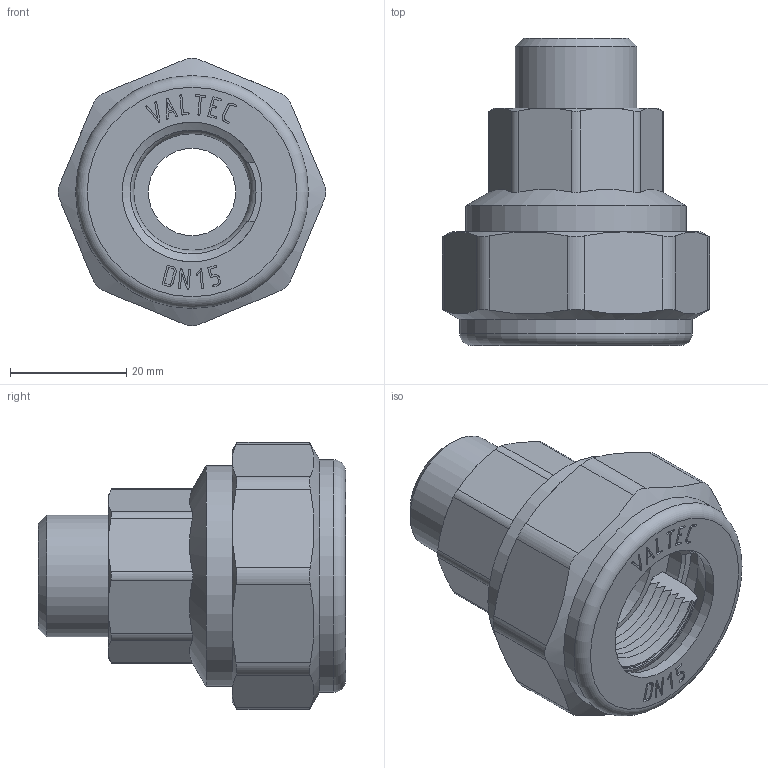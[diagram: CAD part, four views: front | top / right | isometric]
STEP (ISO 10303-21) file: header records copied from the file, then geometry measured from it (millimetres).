
FILE_DESCRIPTION(('STEP AP203'), '1');
FILE_NAME('覆.302634.084.000 捘 - VTr.801.N.0404', '2024-07-24T13:13:54', ('Boss'), (''), 'C3D Converter', 'C3D Toolkit', '');
FILE_SCHEMA(('CONFIG_CONTROL_DESIGN'));
Length unit declared in the file: millimetre
Products named in the file (1): ВР.302634.084.000 СБ
Bounding box: 45.88 x 52.77 x 45.88 mm (x, y, z)
Volume: 29021 mm3; surface area: 16081.1 mm2
Topology: 1 solids, 1 shells, 302 faces, 824 edges, 543 vertices
Faces by surface type: extrusion 124, plane 112, cone 32, cylinder 31, torus 3
Full cylindrical faces by diameter (mm): 15 x1, 20.955 x1, 22 x1, 22.3 x1, 24 x1, 29 x1, 30.9 x1, 31.1 x1, 34.94 x1, 37.897 x1, 40 x1
Entity records: 11919 total; most frequent: CARTESIAN_POINT 4996, ORIENTED_EDGE 1594, DIRECTION 992, EDGE_CURVE 797, VERTEX_POINT 541, VECTOR 506, B_SPLINE_CURVE_WITH_KNOTS 474, LINE 382
